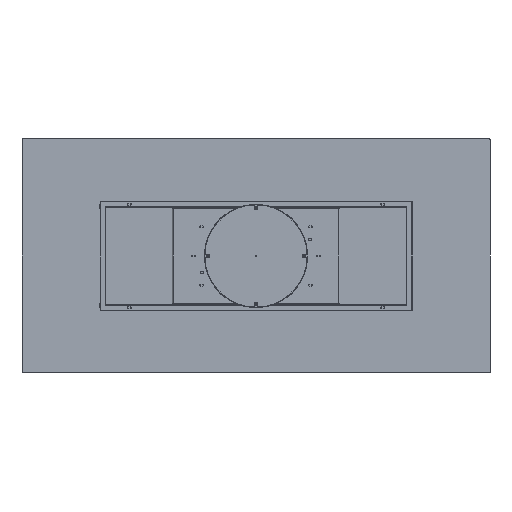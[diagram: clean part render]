
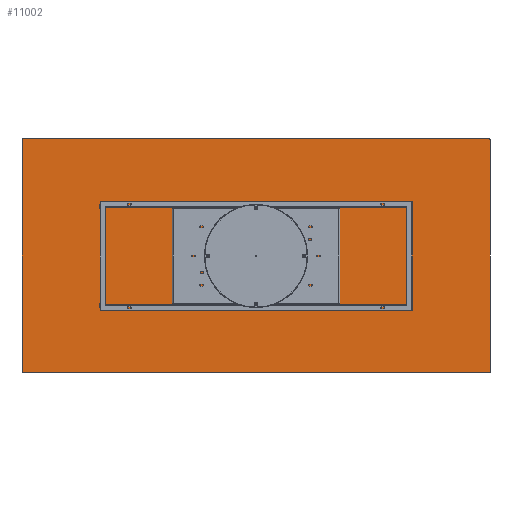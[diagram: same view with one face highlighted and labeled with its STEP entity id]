
A CAD part, front view. The second image highlights one B-rep face of the part: STEP entity #11002.
In plain terms, the highlighted planar face has unit normal (0, -1, 0).
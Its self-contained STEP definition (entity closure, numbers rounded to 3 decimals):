
#47 = AXIS2_PLACEMENT_3D ( 'NONE', #3409, #3256, #7908 ) ;
#284 = CARTESIAN_POINT ( 'NONE',  ( 1195., 0., 595. ) ) ;
#627 = EDGE_CURVE ( 'NONE', #6463, #9930, #5981, .T. ) ;
#745 = EDGE_CURVE ( 'NONE', #11497, #6547, #7607, .T. ) ;
#948 = CARTESIAN_POINT ( 'NONE',  ( 1195., 0., -600. ) ) ;
#1312 = VECTOR ( 'NONE', #1677, 1000. ) ;
#1677 = DIRECTION ( 'NONE',  ( 1., 0., 0. ) ) ;
#1784 = ORIENTED_EDGE ( 'NONE', *, *, #13232, .F. ) ;
#1834 = PLANE ( 'NONE',  #9440 ) ;
#1847 = CARTESIAN_POINT ( 'NONE',  ( -1195., 0., -595. ) ) ;
#1881 = DIRECTION ( 'NONE',  ( 0., 0., 1. ) ) ;
#1982 = VECTOR ( 'NONE', #7163, 1000. ) ;
#2375 = ORIENTED_EDGE ( 'NONE', *, *, #12797, .T. ) ;
#2895 = ORIENTED_EDGE ( 'NONE', *, *, #10496, .T. ) ;
#2970 = CARTESIAN_POINT ( 'NONE',  ( -1195., 0., 595. ) ) ;
#3184 = CIRCLE ( 'NONE', #12087, 5. ) ;
#3256 = DIRECTION ( 'NONE',  ( 0., -1., 0. ) ) ;
#3311 = EDGE_CURVE ( 'NONE', #14623, #9930, #3184, .T. ) ;
#3409 = CARTESIAN_POINT ( 'NONE',  ( 1195., 0., -595. ) ) ;
#3731 = DIRECTION ( 'NONE',  ( 0., 0., 1. ) ) ;
#4021 = LINE ( 'NONE', #13331, #1312 ) ;
#4242 = DIRECTION ( 'NONE',  ( 0., 1., 0. ) ) ;
#4375 = DIRECTION ( 'NONE',  ( 0., -1., 0. ) ) ;
#4400 = VECTOR ( 'NONE', #6289, 1000. ) ;
#4587 = VERTEX_POINT ( 'NONE', #8576 ) ;
#4847 = CARTESIAN_POINT ( 'NONE',  ( -1195., 0., -600. ) ) ;
#5037 = EDGE_CURVE ( 'NONE', #4587, #7543, #14313, .T. ) ;
#5158 = EDGE_LOOP ( 'NONE', ( #14987, #10263, #1784, #7708, #14333, #2895, #15127, #2375 ) ) ;
#5331 = FACE_OUTER_BOUND ( 'NONE', #5158, .T. ) ;
#5646 = DIRECTION ( 'NONE',  ( 0., 0., 1. ) ) ;
#5773 = CIRCLE ( 'NONE', #8991, 5. ) ;
#5981 = LINE ( 'NONE', #14362, #8348 ) ;
#6081 = CARTESIAN_POINT ( 'NONE',  ( 1200., 0., -600. ) ) ;
#6158 = CARTESIAN_POINT ( 'NONE',  ( -1200., 0., -595. ) ) ;
#6289 = DIRECTION ( 'NONE',  ( -1., 0., 0. ) ) ;
#6463 = VERTEX_POINT ( 'NONE', #6158 ) ;
#6547 = VERTEX_POINT ( 'NONE', #4847 ) ;
#6648 = DIRECTION ( 'NONE',  ( 0., 0., 1. ) ) ;
#6868 = VERTEX_POINT ( 'NONE', #7303 ) ;
#7163 = DIRECTION ( 'NONE',  ( 0., 0., -1. ) ) ;
#7220 = AXIS2_PLACEMENT_3D ( 'NONE', #1847, #9065, #5646 ) ;
#7303 = CARTESIAN_POINT ( 'NONE',  ( 1195., 0., 600. ) ) ;
#7468 = CIRCLE ( 'NONE', #7220, 5. ) ;
#7543 = VERTEX_POINT ( 'NONE', #11302 ) ;
#7607 = LINE ( 'NONE', #13357, #4400 ) ;
#7708 = ORIENTED_EDGE ( 'NONE', *, *, #3311, .T. ) ;
#7908 = DIRECTION ( 'NONE',  ( 0., 0., 1. ) ) ;
#8348 = VECTOR ( 'NONE', #3731, 1000. ) ;
#8576 = CARTESIAN_POINT ( 'NONE',  ( 1200., 0., 595. ) ) ;
#8669 = DIRECTION ( 'NONE',  ( 0., -1., 0. ) ) ;
#8905 = EDGE_CURVE ( 'NONE', #4587, #6868, #5773, .T. ) ;
#8991 = AXIS2_PLACEMENT_3D ( 'NONE', #284, #8669, #14578 ) ;
#9065 = DIRECTION ( 'NONE',  ( 0., -1., 0. ) ) ;
#9440 = AXIS2_PLACEMENT_3D ( 'NONE', #14874, #4242, #6648 ) ;
#9930 = VERTEX_POINT ( 'NONE', #13594 ) ;
#10263 = ORIENTED_EDGE ( 'NONE', *, *, #8905, .T. ) ;
#10496 = EDGE_CURVE ( 'NONE', #6463, #6547, #7468, .T. ) ;
#11002 = ADVANCED_FACE ( 'NONE', ( #5331 ), #1834, .F. ) ;
#11302 = CARTESIAN_POINT ( 'NONE',  ( 1200., 0., -595. ) ) ;
#11497 = VERTEX_POINT ( 'NONE', #948 ) ;
#12087 = AXIS2_PLACEMENT_3D ( 'NONE', #2970, #4375, #1881 ) ;
#12797 = EDGE_CURVE ( 'NONE', #11497, #7543, #14700, .T. ) ;
#13232 = EDGE_CURVE ( 'NONE', #14623, #6868, #4021, .T. ) ;
#13331 = CARTESIAN_POINT ( 'NONE',  ( -1200., 0., 600. ) ) ;
#13357 = CARTESIAN_POINT ( 'NONE',  ( -1200., 0., -600. ) ) ;
#13594 = CARTESIAN_POINT ( 'NONE',  ( -1200., 0., 595. ) ) ;
#14313 = LINE ( 'NONE', #6081, #1982 ) ;
#14333 = ORIENTED_EDGE ( 'NONE', *, *, #627, .F. ) ;
#14362 = CARTESIAN_POINT ( 'NONE',  ( -1200., 0., -600. ) ) ;
#14578 = DIRECTION ( 'NONE',  ( 0., 0., 1. ) ) ;
#14623 = VERTEX_POINT ( 'NONE', #15262 ) ;
#14700 = CIRCLE ( 'NONE', #47, 5. ) ;
#14874 = CARTESIAN_POINT ( 'NONE',  ( 0., 0., 0. ) ) ;
#14987 = ORIENTED_EDGE ( 'NONE', *, *, #5037, .F. ) ;
#15127 = ORIENTED_EDGE ( 'NONE', *, *, #745, .F. ) ;
#15262 = CARTESIAN_POINT ( 'NONE',  ( -1195., 0., 600. ) ) ;
